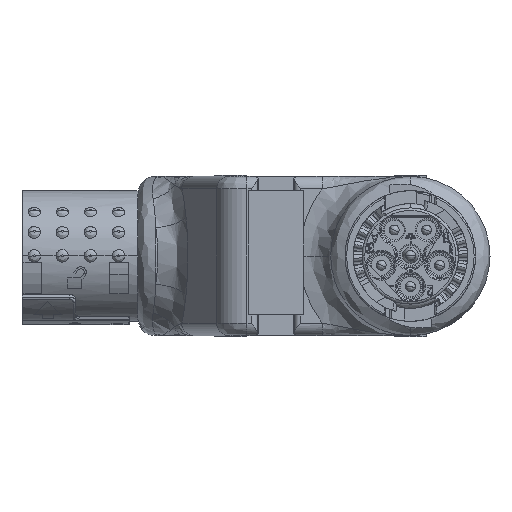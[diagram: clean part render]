
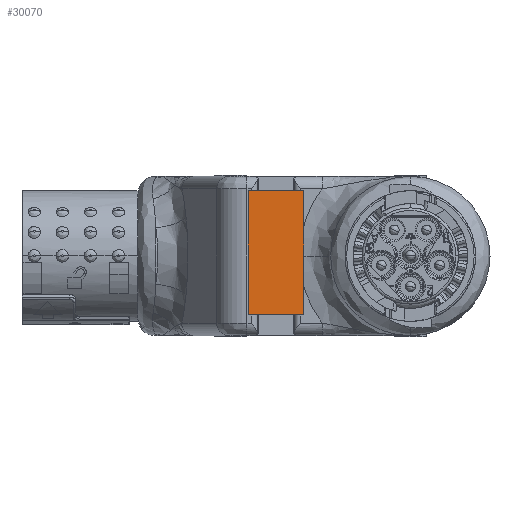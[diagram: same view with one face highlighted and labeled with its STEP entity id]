
A CAD part, left-side view. The second image highlights one B-rep face of the part: STEP entity #30070.
In plain terms, the highlighted planar face has unit normal (-1, 0, 0).
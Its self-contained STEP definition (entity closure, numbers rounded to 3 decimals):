
#27 = VECTOR ( 'NONE', #93828, 1000. ) ;
#790 = VERTEX_POINT ( 'NONE', #80635 ) ;
#1686 = CARTESIAN_POINT ( 'NONE',  ( -13.904, -32.41, 30.928 ) ) ;
#2958 = ORIENTED_EDGE ( 'NONE', *, *, #83603, .T. ) ;
#3443 = ORIENTED_EDGE ( 'NONE', *, *, #45189, .T. ) ;
#15472 = VERTEX_POINT ( 'NONE', #47192 ) ;
#18535 = VECTOR ( 'NONE', #32359, 1000. ) ;
#21785 = VECTOR ( 'NONE', #90282, 1000. ) ;
#24809 = EDGE_CURVE ( 'NONE', #790, #15472, #40650, .T. ) ;
#30070 = ADVANCED_FACE ( 'NONE', ( #61553 ), #76096, .T. ) ;
#30616 = CARTESIAN_POINT ( 'NONE',  ( -13.904, -36.86, 30.928 ) ) ;
#32359 = DIRECTION ( 'NONE',  ( 0., 0., -1. ) ) ;
#32683 = EDGE_CURVE ( 'NONE', #90662, #67481, #69922, .T. ) ;
#33941 = ORIENTED_EDGE ( 'NONE', *, *, #24809, .T. ) ;
#37864 = LINE ( 'NONE', #30616, #27 ) ;
#40650 = LINE ( 'NONE', #1686, #18535 ) ;
#45189 = EDGE_CURVE ( 'NONE', #67481, #790, #37864, .T. ) ;
#47192 = CARTESIAN_POINT ( 'NONE',  ( -13.904, -32.41, 11.078 ) ) ;
#59185 = LINE ( 'NONE', #98071, #21785 ) ;
#61553 = FACE_OUTER_BOUND ( 'NONE', #100049, .T. ) ;
#62080 = DIRECTION ( 'NONE',  ( 0., 1., 0. ) ) ;
#62143 = DIRECTION ( 'NONE',  ( 0., 0., 1. ) ) ;
#65595 = CARTESIAN_POINT ( 'NONE',  ( -13.904, -41.31, 30.928 ) ) ;
#67481 = VERTEX_POINT ( 'NONE', #65595 ) ;
#69922 = LINE ( 'NONE', #77669, #86303 ) ;
#71463 = ORIENTED_EDGE ( 'NONE', *, *, #32683, .T. ) ;
#76096 = PLANE ( 'NONE',  #93558 ) ;
#76426 = CARTESIAN_POINT ( 'NONE',  ( -13.904, -41.31, 11.078 ) ) ;
#77669 = CARTESIAN_POINT ( 'NONE',  ( -13.904, -41.31, 30.928 ) ) ;
#80635 = CARTESIAN_POINT ( 'NONE',  ( -13.904, -32.41, 30.928 ) ) ;
#83603 = EDGE_CURVE ( 'NONE', #15472, #90662, #59185, .T. ) ;
#86303 = VECTOR ( 'NONE', #62143, 1000. ) ;
#90282 = DIRECTION ( 'NONE',  ( 0., -1., 0. ) ) ;
#90662 = VERTEX_POINT ( 'NONE', #76426 ) ;
#92626 = DIRECTION ( 'NONE',  ( -1., 0., 0. ) ) ;
#93558 = AXIS2_PLACEMENT_3D ( 'NONE', #99906, #92626, #62080 ) ;
#93828 = DIRECTION ( 'NONE',  ( 0., 1., 0. ) ) ;
#98071 = CARTESIAN_POINT ( 'NONE',  ( -13.904, -36.86, 11.078 ) ) ;
#99906 = CARTESIAN_POINT ( 'NONE',  ( -13.904, -36.86, 30.928 ) ) ;
#100049 = EDGE_LOOP ( 'NONE', ( #2958, #71463, #3443, #33941 ) ) ;
